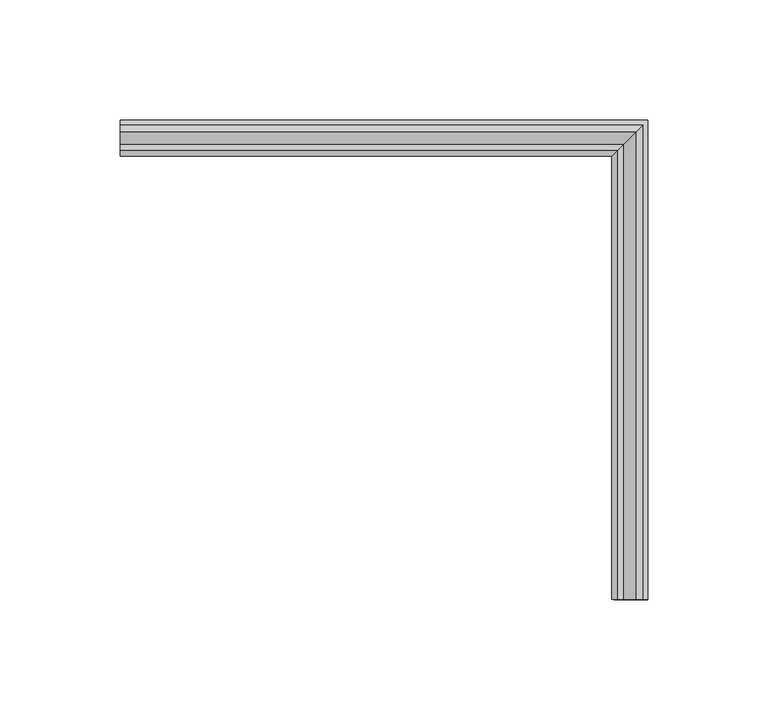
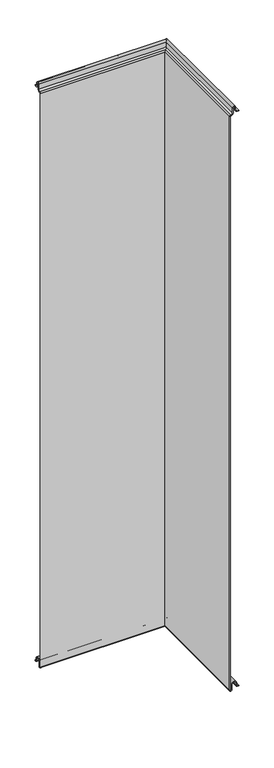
"""IFC4 building model written with IfcOpenShell, lengths in millimetres: plate geometry, Угловой модуль Fronttop : Угловой модуль Fronttop 150/1000."""

from ifc_helpers import new_model, si_unit, frame, origin, place, context, project, spatial, polyline, circle_curve, ellipse_curve, source, transform, mapped, element, save
from ifc_brep_helpers import plane_surface, cylinder_surface, revolved_surface, advanced_brep


def plate_1ac65dce(model_context):
    return source(origin(), model_context, "Body", "AdvancedBrep", [
        advanced_brep(
        [(-169.5, 13.0, 1001.0), (-169.5, 15.0, 1001.0), (-169.5, 15.0, 1000.0), (-169.5, 13.0, 1000.0), (-169.5, 9.0, 1004.0), (-169.5, 9.0, 1008.0), (-169.5, 6.0, 1008.0), (-169.5, 6.0, 999.5), (-169.5, 2.1134897, 996.0214069), (-169.5, 1.0, 995.0), (-169.5, 1.0, -0.5), (-169.5, 3.0, -0.5), (-169.5, 3.0, 8.0), (-169.5, 12.0, 8.0), (-169.5, 12.0, 4.0), (-169.5, 13.0, 3.0), (-169.5, 15.0, 3.0), (-169.5, 15.0, 2.0), (-169.5, 13.0, 2.0), (-169.5, 11.0, 4.0), (-169.5, 11.0, 8.0), (-169.5, 4.0, 8.0), (-169.5, 4.0, -0.5), (-169.5, 0.0, -0.5), (-169.5, 0.0, 995.0), (-169.5, 2.220863, 996.9877675), (-169.5, 5.0, 999.5), (-169.5, 5.0, 1008.0), (-169.5, 10.0, 1008.0), (-169.5, 10.0, 1004.0), (48.0, 13.0, 1001.0), (48.0, -184.5, 1001.0), (50.0, -184.5, 1001.0), (50.0, 15.0, 1001.0), (50.0, 15.0, 1000.0), (50.0, -184.5, 1000.0), (48.0, -184.5, 1000.0), (48.0, 13.0, 1000.0), (44.0, 9.0, 1004.0), (44.0, 9.0, 1008.0), (41.0, 6.0, 1008.0), (41.0, 6.0, 999.5), (37.1134897, 2.1134897, 996.0214069), (36.0, 1.0, 995.0), (36.0, 1.0, -0.5), (38.0, 3.0, -0.5), (38.0, 3.0, 8.0), (47.0, 12.0, 8.0), (47.0, 12.0, 4.0), (48.0, 13.0, 3.0), (48.0, -184.5, 3.0), (50.0, -184.5, 3.0), (50.0, 15.0, 3.0), (50.0, 15.0, 2.0), (50.0, -184.5, 2.0), (48.0, -184.5, 2.0), (48.0, 13.0, 2.0), (46.0, 11.0, 4.0), (46.0, 11.0, 8.0), (39.0, 4.0, 8.0), (39.0, 4.0, -0.5), (35.0, 0.0, -0.5), (35.0, 0.0, 995.0), (37.220863, 2.220863, 996.9877675), (40.0, 5.0, 999.5), (40.0, 5.0, 1008.0), (45.0, 10.0, 1008.0), (45.0, 10.0, 1004.0), (45.0, -184.5, 1004.0), (45.0, -184.5, 1008.0), (40.0, -184.5, 1008.0), (40.0, -184.5, 999.5), (37.2239212, -184.5, 997.0152907), (35.0, -184.5, 995.0), (35.0, -184.5, -0.5), (39.0, -184.5, -0.5), (39.0, -184.5, 8.0), (46.0, -184.5, 8.0), (46.0, -184.5, 4.0), (47.0, -184.5, 4.0), (47.0, -184.5, 8.0), (38.0, -184.5, 8.0), (38.0, -184.5, -0.5), (36.0, -184.5, -0.5), (36.0, -184.5, 995.0), (37.1104315, -184.5, 995.9938837), (41.0, -184.5, 999.5), (41.0, -184.5, 1008.0), (44.0, -184.5, 1008.0), (44.0, -184.5, 1004.0)],
        [
            (0, 1),
            (1, 2),
            (2, 3),
            (3, 4, circle_curve(frame((-169.5, 13.0, 1004.0), z_axis=(-1.0, 0.0, 0.0), x_axis=(0.0, -1.0, 0.0)), 4.0)),
            (4, 5),
            (5, 6, circle_curve(frame((-169.5, 7.5, 1008.0), z_axis=(1.0, 0.0, 0.0), x_axis=(0.0, -1.0, 0.0)), 1.5)),
            (6, 7),
            (7, 8, circle_curve(frame((-169.5, 2.5, 999.5), z_axis=(-1.0, 0.0, 0.0), x_axis=(0.0, -1.0, 0.0)), 3.5)),
            (8, 9, circle_curve(frame((-169.5, 2.0, 995.0), z_axis=(1.0, 0.0, 0.0), x_axis=(0.0, -1.0, 0.0)), 1.0)),
            (9, 10),
            (10, 11, circle_curve(frame((-169.5, 2.0, -0.5), z_axis=(1.0, 0.0, 0.0), x_axis=(0.0, -1.0, 0.0)), 1.0)),
            (11, 12),
            (12, 13, circle_curve(frame((-169.5, 7.5, 8.0), z_axis=(-1.0, 0.0, 0.0), x_axis=(0.0, -1.0, 0.0)), 4.5)),
            (13, 14),
            (14, 15, circle_curve(frame((-169.5, 13.0, 4.0), z_axis=(1.0, 0.0, 0.0), x_axis=(0.0, -1.0, 0.0)), 1.0)),
            (15, 16),
            (16, 17),
            (17, 18),
            (18, 19, circle_curve(frame((-169.5, 13.0, 4.0), z_axis=(-1.0, 0.0, 0.0), x_axis=(0.0, -1.0, 0.0)), 2.0)),
            (19, 20),
            (20, 21, circle_curve(frame((-169.5, 7.5, 8.0), z_axis=(1.0, 0.0, 0.0), x_axis=(0.0, -1.0, 0.0)), 3.5)),
            (21, 22),
            (22, 23, circle_curve(frame((-169.5, 2.0, -0.5), z_axis=(-1.0, 0.0, 0.0), x_axis=(0.0, -1.0, 0.0)), 2.0)),
            (23, 24),
            (24, 25, circle_curve(frame((-169.5, 2.0, 995.0), z_axis=(-1.0, 0.0, 0.0), x_axis=(0.0, -1.0, 0.0)), 2.0)),
            (25, 26, circle_curve(frame((-169.5, 2.5, 999.5), z_axis=(1.0, 0.0, 0.0), x_axis=(0.0, -1.0, 0.0)), 2.5)),
            (26, 27),
            (27, 28, circle_curve(frame((-169.5, 7.5, 1008.0), z_axis=(-1.0, 0.0, 0.0), x_axis=(0.0, -1.0, 0.0)), 2.5)),
            (28, 29),
            (29, 0, circle_curve(frame((-169.5, 13.0, 1004.0), z_axis=(1.0, 0.0, 0.0), x_axis=(0.0, -1.0, 0.0)), 3.0)),
            (0, 30),
            (30, 31),
            (31, 32),
            (32, 33),
            (33, 1),
            (33, 34),
            (34, 2),
            (34, 35),
            (35, 36),
            (36, 37),
            (37, 3),
            (37, 38, ellipse_curve(frame((48.0, 13.0, 1004.0), z_axis=(-0.7071067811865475, 0.7071067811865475, 0.0), x_axis=(-0.7071067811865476, -0.7071067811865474, 0.0)), 5.6568542, 4.0)),
            (38, 4),
            (38, 39),
            (39, 5),
            (39, 40, ellipse_curve(frame((42.5, 7.5, 1008.0), z_axis=(0.7071067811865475, -0.7071067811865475, 0.0), x_axis=(0.7071067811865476, 0.7071067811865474, 0.0)), 2.1213204, 1.5)),
            (40, 6),
            (40, 41),
            (41, 7),
            (41, 42, ellipse_curve(frame((37.5, 2.5, 999.5), z_axis=(-0.7071067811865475, 0.7071067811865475, 0.0), x_axis=(-0.7071067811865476, -0.7071067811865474, 0.0)), 4.9497475, 3.5)),
            (42, 8),
            (42, 43, ellipse_curve(frame((37.0, 2.0, 995.0), z_axis=(0.7071067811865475, -0.7071067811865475, 0.0), x_axis=(0.7071067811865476, 0.7071067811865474, 0.0)), 1.4142136, 1.0)),
            (43, 9),
            (43, 44),
            (44, 10),
            (44, 45, ellipse_curve(frame((37.0, 2.0, -0.5), z_axis=(0.7071067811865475, -0.7071067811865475, 0.0), x_axis=(0.7071067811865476, 0.7071067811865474, 0.0)), 1.4142136, 1.0)),
            (45, 11),
            (45, 46),
            (46, 12),
            (46, 47, ellipse_curve(frame((42.5, 7.5, 8.0), z_axis=(-0.7071067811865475, 0.7071067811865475, 0.0), x_axis=(-0.7071067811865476, -0.7071067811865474, 0.0)), 6.363961, 4.5)),
            (47, 13),
            (47, 48),
            (48, 14),
            (48, 49, ellipse_curve(frame((48.0, 13.0, 4.0), z_axis=(0.7071067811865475, -0.7071067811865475, 0.0), x_axis=(0.7071067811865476, 0.7071067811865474, 0.0)), 1.4142136, 1.0)),
            (49, 15),
            (49, 50),
            (50, 51),
            (51, 52),
            (52, 16),
            (52, 53),
            (53, 17),
            (53, 54),
            (54, 55),
            (55, 56),
            (56, 18),
            (56, 57, ellipse_curve(frame((48.0, 13.0, 4.0), z_axis=(-0.7071067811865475, 0.7071067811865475, 0.0), x_axis=(-0.7071067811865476, -0.7071067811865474, 0.0)), 2.8284271, 2.0)),
            (57, 19),
            (57, 58),
            (58, 20),
            (58, 59, ellipse_curve(frame((42.5, 7.5, 8.0), z_axis=(0.7071067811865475, -0.7071067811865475, 0.0), x_axis=(0.7071067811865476, 0.7071067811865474, 0.0)), 4.9497475, 3.5)),
            (59, 21),
            (59, 60),
            (60, 22),
            (60, 61, ellipse_curve(frame((37.0, 2.0, -0.5), z_axis=(-0.7071067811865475, 0.7071067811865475, 0.0), x_axis=(-0.7071067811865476, -0.7071067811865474, 0.0)), 2.8284271, 2.0)),
            (61, 23),
            (61, 62),
            (62, 24),
            (62, 63, ellipse_curve(frame((37.0, 2.0, 995.0), z_axis=(-0.7071067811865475, 0.7071067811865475, 0.0), x_axis=(-0.7071067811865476, -0.7071067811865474, 0.0)), 2.8284271, 2.0)),
            (63, 25),
            (63, 64, ellipse_curve(frame((37.5, 2.5, 999.5), z_axis=(0.7071067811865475, -0.7071067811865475, 0.0), x_axis=(0.7071067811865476, 0.7071067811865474, 0.0)), 3.5355339, 2.5)),
            (64, 26),
            (64, 65),
            (65, 27),
            (65, 66, ellipse_curve(frame((42.5, 7.5, 1008.0), z_axis=(-0.7071067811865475, 0.7071067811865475, 0.0), x_axis=(-0.7071067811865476, -0.7071067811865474, 0.0)), 3.5355339, 2.5)),
            (66, 28),
            (66, 67),
            (67, 29),
            (67, 30, ellipse_curve(frame((48.0, 13.0, 1004.0), z_axis=(0.7071067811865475, -0.7071067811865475, 0.0), x_axis=(0.7071067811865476, 0.7071067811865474, 0.0)), 4.2426407, 3.0)),
            (31, 68, circle_curve(frame((48.0, -184.5, 1004.0), z_axis=(0.0, 1.0, 0.0), x_axis=(-1.0, 0.0, 0.0)), 3.0)),
            (68, 69),
            (69, 70, circle_curve(frame((42.5, -184.5, 1008.0), z_axis=(0.0, -1.0, 0.0), x_axis=(-1.0, 0.0, 0.0)), 2.5)),
            (70, 71),
            (71, 72, circle_curve(frame((37.5, -184.5, 999.5), z_axis=(0.0, 1.0, 0.0), x_axis=(-1.0, 0.0, 0.0)), 2.5)),
            (72, 73, circle_curve(frame((37.0, -184.5, 995.0), z_axis=(0.0, -1.0, 0.0), x_axis=(-1.0, 0.0, 0.0)), 2.0)),
            (73, 74),
            (74, 75, circle_curve(frame((37.0, -184.5, -0.5), z_axis=(0.0, -1.0, 0.0), x_axis=(-1.0, 0.0, 0.0)), 2.0)),
            (75, 76),
            (76, 77, circle_curve(frame((42.5, -184.5, 8.0), z_axis=(0.0, 1.0, 0.0), x_axis=(-1.0, 0.0, 0.0)), 3.5)),
            (77, 78),
            (78, 55, circle_curve(frame((48.0, -184.5, 4.0), z_axis=(0.0, -1.0, 0.0), x_axis=(-1.0, 0.0, 0.0)), 2.0)),
            (54, 51),
            (50, 79, circle_curve(frame((48.0, -184.5, 4.0), z_axis=(0.0, 1.0, 0.0), x_axis=(-1.0, 0.0, 0.0)), 1.0)),
            (79, 80),
            (80, 81, circle_curve(frame((42.5, -184.5, 8.0), z_axis=(0.0, -1.0, 0.0), x_axis=(-1.0, 0.0, 0.0)), 4.5)),
            (81, 82),
            (82, 83, circle_curve(frame((37.0, -184.5, -0.5), z_axis=(0.0, 1.0, 0.0), x_axis=(-1.0, 0.0, 0.0)), 1.0)),
            (83, 84),
            (84, 85, circle_curve(frame((37.0, -184.5, 995.0), z_axis=(0.0, 1.0, 0.0), x_axis=(-1.0, 0.0, 0.0)), 1.0)),
            (85, 86, circle_curve(frame((37.5, -184.5, 999.5), z_axis=(0.0, -1.0, 0.0), x_axis=(-1.0, 0.0, 0.0)), 3.5)),
            (86, 87),
            (87, 88, circle_curve(frame((42.5, -184.5, 1008.0), z_axis=(0.0, 1.0, 0.0), x_axis=(-1.0, 0.0, 0.0)), 1.5)),
            (88, 89),
            (89, 36, circle_curve(frame((48.0, -184.5, 1004.0), z_axis=(0.0, -1.0, 0.0), x_axis=(-1.0, 0.0, 0.0)), 4.0)),
            (35, 32),
            (89, 38),
            (88, 39),
            (87, 40),
            (86, 41),
            (85, 42),
            (84, 43),
            (83, 44),
            (82, 45),
            (81, 46),
            (80, 47),
            (79, 48),
            (78, 57),
            (77, 58),
            (76, 59),
            (75, 60),
            (74, 61),
            (73, 62),
            (72, 63),
            (71, 64),
            (70, 65),
            (69, 66),
            (68, 67),
        ],
        [
            plane_surface(frame((-169.5, 0.0, 0.0), z_axis=(-1.0, 0.0, 0.0), x_axis=(0.0, 0.0, 1.0))),
            plane_surface(frame((-169.5, 13.0, 1001.0), z_axis=(0.0, 0.0, 1.0), x_axis=(1.0, 0.0, 0.0))),
            plane_surface(frame((-169.5, 15.0, 1001.0), z_axis=(0.0, 1.0, 0.0), x_axis=(1.0, 0.0, 0.0))),
            plane_surface(frame((-169.5, 15.0, 1000.0), z_axis=(0.0, 0.0, -1.0), x_axis=(1.0, 0.0, 0.0))),
            cylinder_surface(frame((-169.5, 13.0, 1004.0), z_axis=(-1.0, 0.0, 0.0), x_axis=(0.0, -1.0, 0.0)), 4.0),
            plane_surface(frame((-169.5, 9.0, 1004.0), z_axis=(0.0, -1.0, 0.0), x_axis=(1.0, 0.0, 0.0))),
            revolved_surface(polyline([(44.00000003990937, 6.0, 1008.0), (-169.5, 6.0, 1008.0)]), (-169.5, 7.5, 1008.0), (1.0, 0.0, 0.0)),
            plane_surface(frame((-169.5, 6.0, 1008.0), z_axis=(0.0, 1.0, 0.0), x_axis=(1.0, 0.0, 0.0))),
            cylinder_surface(frame((-169.5, 2.5, 999.5), z_axis=(-1.0, 0.0, 0.0), x_axis=(0.0, -1.0, 0.0)), 3.5),
            revolved_surface(polyline([(38.000000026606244, 1.0, 995.0), (-169.5, 1.0, 995.0)]), (-169.5, 2.0, 995.0), (1.0, 0.0, 0.0)),
            plane_surface(frame((-169.5, 1.0, 995.0), z_axis=(0.0, 1.0, 0.0), x_axis=(1.0, 0.0, 0.0))),
            revolved_surface(polyline([(38.000000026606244, 1.0, -0.5), (-169.5, 1.0, -0.5)]), (-169.5, 2.0, -0.5), (1.0, 0.0, 0.0)),
            plane_surface(frame((-169.5, 3.0, -0.5), z_axis=(0.0, -1.0, 0.0), x_axis=(1.0, 0.0, 0.0))),
            cylinder_surface(frame((-169.5, 7.5, 8.0), z_axis=(-1.0, 0.0, 0.0), x_axis=(0.0, -1.0, 0.0)), 4.5),
            plane_surface(frame((-169.5, 12.0, 8.0), z_axis=(0.0, 1.0, 0.0), x_axis=(1.0, 0.0, 0.0))),
            revolved_surface(polyline([(49.000000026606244, 12.0, 4.0), (-169.5, 12.0, 4.0)]), (-169.5, 13.0, 4.0), (1.0, 0.0, 0.0)),
            plane_surface(frame((-169.5, 13.0, 3.0), z_axis=(0.0, 0.0, 1.0), x_axis=(1.0, 0.0, 0.0))),
            plane_surface(frame((-169.5, 15.0, 3.0), z_axis=(0.0, 1.0, 0.0), x_axis=(1.0, 0.0, 0.0))),
            plane_surface(frame((-169.5, 15.0, 2.0), z_axis=(0.0, 0.0, -1.0), x_axis=(1.0, 0.0, 0.0))),
            cylinder_surface(frame((-169.5, 13.0, 4.0), z_axis=(-1.0, 0.0, 0.0), x_axis=(0.0, -1.0, 0.0)), 2.0),
            plane_surface(frame((-169.5, 11.0, 4.0), z_axis=(0.0, -1.0, 0.0), x_axis=(1.0, 0.0, 0.0))),
            revolved_surface(polyline([(46.00000002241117, 4.0, 8.0), (-169.5, 4.0, 8.0)]), (-169.5, 7.5, 8.0), (1.0, 0.0, 0.0)),
            plane_surface(frame((-169.5, 4.0, 8.0), z_axis=(0.0, 1.0, 0.0), x_axis=(1.0, 0.0, 0.0))),
            cylinder_surface(frame((-169.5, 2.0, -0.5), z_axis=(-1.0, 0.0, 0.0), x_axis=(0.0, -1.0, 0.0)), 2.0),
            plane_surface(frame((-169.5, 0.0, -0.5), z_axis=(0.0, -1.0, 0.0), x_axis=(1.0, 0.0, 0.0))),
            cylinder_surface(frame((-169.5, 2.0, 995.0), z_axis=(-1.0, 0.0, 0.0), x_axis=(0.0, -1.0, 0.0)), 2.0),
            revolved_surface(polyline([(40.0, 0.0, 999.5), (-169.5, 0.0, 999.5)]), (-169.5, 2.5, 999.5), (1.0, 0.0, 0.0)),
            plane_surface(frame((-169.5, 5.0, 999.5), z_axis=(0.0, -1.0, 0.0), x_axis=(1.0, 0.0, 0.0))),
            cylinder_surface(frame((-169.5, 7.5, 1008.0), z_axis=(-1.0, 0.0, 0.0), x_axis=(0.0, -1.0, 0.0)), 2.5),
            plane_surface(frame((-169.5, 10.0, 1008.0), z_axis=(0.0, 1.0, 0.0), x_axis=(1.0, 0.0, 0.0))),
            revolved_surface(polyline([(51.00000000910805, 10.0, 1004.0), (-169.5, 10.0, 1004.0)]), (-169.5, 13.0, 1004.0), (1.0, 0.0, 0.0)),
            plane_surface(frame((35.0, -184.5, 0.0), z_axis=(0.0, -1.0, 0.0), x_axis=(0.0, 0.0, 1.0))),
            plane_surface(frame((50.0, 15.0, 1001.0), z_axis=(1.0, 0.0, 0.0), x_axis=(0.0, -1.0, 0.0))),
            cylinder_surface(frame((48.0, 0.0, 1004.0), z_axis=(0.0, 1.0, 0.0), x_axis=(-1.0, 0.0, 0.0)), 4.0),
            plane_surface(frame((44.0, 9.0, 1004.0), z_axis=(-1.0, 0.0, 0.0), x_axis=(0.0, -1.0, 0.0))),
            revolved_surface(polyline([(41.0, -184.5, 1008.0), (41.0, 9.00000003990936, 1008.0)]), (42.5, 0.0, 1008.0), (0.0, -1.0, 0.0)),
            plane_surface(frame((41.0, 6.0, 1008.0), z_axis=(1.0, 0.0, 0.0), x_axis=(0.0, -1.0, 0.0))),
            cylinder_surface(frame((37.5, 0.0, 999.5), z_axis=(0.0, 1.0, 0.0), x_axis=(-1.0, 0.0, 0.0)), 3.5),
            revolved_surface(polyline([(36.0, -184.5, 995.0), (36.0, 3.0000000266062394, 995.0)]), (37.0, 0.0, 995.0), (0.0, -1.0, 0.0)),
            plane_surface(frame((36.0, 1.0, 995.0), z_axis=(1.0, 0.0, 0.0), x_axis=(0.0, -1.0, 0.0))),
            revolved_surface(polyline([(36.0, -184.5, -0.5), (36.0, 3.0000000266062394, -0.5)]), (37.0, 0.0, -0.5), (0.0, -1.0, 0.0)),
            plane_surface(frame((38.0, 3.0, -0.5), z_axis=(-1.0, 0.0, 0.0), x_axis=(0.0, -1.0, 0.0))),
            cylinder_surface(frame((42.5, 0.0, 8.0), z_axis=(0.0, 1.0, 0.0), x_axis=(-1.0, 0.0, 0.0)), 4.5),
            plane_surface(frame((47.0, 12.0, 8.0), z_axis=(1.0, 0.0, 0.0), x_axis=(0.0, -1.0, 0.0))),
            revolved_surface(polyline([(47.0, -184.5, 4.0), (47.0, 14.000000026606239, 4.0)]), (48.0, 0.0, 4.0), (0.0, -1.0, 0.0)),
            plane_surface(frame((50.0, 15.0, 3.0), z_axis=(1.0, 0.0, 0.0), x_axis=(0.0, -1.0, 0.0))),
            cylinder_surface(frame((48.0, 0.0, 4.0), z_axis=(0.0, 1.0, 0.0), x_axis=(-1.0, 0.0, 0.0)), 2.0),
            plane_surface(frame((46.0, 11.0, 4.0), z_axis=(-1.0, 0.0, 0.0), x_axis=(0.0, -1.0, 0.0))),
            revolved_surface(polyline([(39.0, -184.5, 8.0), (39.0, 11.00000002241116, 8.0)]), (42.5, 0.0, 8.0), (0.0, -1.0, 0.0)),
            plane_surface(frame((39.0, 4.0, 8.0), z_axis=(1.0, 0.0, 0.0), x_axis=(0.0, -1.0, 0.0))),
            cylinder_surface(frame((37.0, 0.0, -0.5), z_axis=(0.0, 1.0, 0.0), x_axis=(-1.0, 0.0, 0.0)), 2.0),
            plane_surface(frame((35.0, 0.0, -0.5), z_axis=(-1.0, 0.0, 0.0), x_axis=(0.0, -1.0, 0.0))),
            cylinder_surface(frame((37.0, 0.0, 995.0), z_axis=(0.0, 1.0, 0.0), x_axis=(-1.0, 0.0, 0.0)), 2.0),
            revolved_surface(polyline([(35.0, -184.5, 999.5), (35.0, 5.0, 999.5)]), (37.5, 0.0, 999.5), (0.0, -1.0, 0.0)),
            plane_surface(frame((40.0, 5.0, 999.5), z_axis=(-1.0, 0.0, 0.0), x_axis=(0.0, -1.0, 0.0))),
            cylinder_surface(frame((42.5, 0.0, 1008.0), z_axis=(0.0, 1.0, 0.0), x_axis=(-1.0, 0.0, 0.0)), 2.5),
            plane_surface(frame((45.0, 10.0, 1008.0), z_axis=(1.0, 0.0, 0.0), x_axis=(0.0, -1.0, 0.0))),
            revolved_surface(polyline([(45.0, -184.5, 1004.0), (45.0, 16.00000000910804, 1004.0)]), (48.0, 0.0, 1004.0), (0.0, -1.0, 0.0)),
        ],
        [
            (0, [[1, 2, 3, 4, 5, 6, 7, 8, 9, 10, 11, 12, 13, 14, 15, 16, 17, 18, 19, 20, 21, 22, 23, 24, 25, 26, 27, 28, 29, 30]]),
            (1, [[-1, 31, 32, 33, 34, 35]]),
            (2, [[-2, -35, 36, 37]]),
            (3, [[-3, -37, 38, 39, 40, 41]]),
            (4, [[-4, -41, 42, 43]]),
            (5, [[-5, -43, 44, 45]]),
            (6, [[-6, -45, 46, 47]]),
            (7, [[-7, -47, 48, 49]]),
            (8, [[-8, -49, 50, 51]]),
            (9, [[-9, -51, 52, 53]]),
            (10, [[-10, -53, 54, 55]]),
            (11, [[-11, -55, 56, 57]]),
            (12, [[-12, -57, 58, 59]]),
            (13, [[-13, -59, 60, 61]]),
            (14, [[-14, -61, 62, 63]]),
            (15, [[-15, -63, 64, 65]]),
            (16, [[-16, -65, 66, 67, 68, 69]]),
            (17, [[-17, -69, 70, 71]]),
            (18, [[-18, -71, 72, 73, 74, 75]]),
            (19, [[-19, -75, 76, 77]]),
            (20, [[-20, -77, 78, 79]]),
            (21, [[-21, -79, 80, 81]]),
            (22, [[-22, -81, 82, 83]]),
            (23, [[-23, -83, 84, 85]]),
            (24, [[-24, -85, 86, 87]]),
            (25, [[-25, -87, 88, 89]]),
            (26, [[-26, -89, 90, 91]]),
            (27, [[-27, -91, 92, 93]]),
            (28, [[-28, -93, 94, 95]]),
            (29, [[-29, -95, 96, 97]]),
            (30, [[-30, -97, 98, -31]]),
            (31, [[99, 100, 101, 102, 103, 104, 105, 106, 107, 108, 109, 110, -73, 111, -67, 112, 113, 114, 115, 116, 117, 118, 119, 120, 121, 122, 123, -39, 124, -33]]),
            (32, [[-36, -34, -124, -38]]),
            (33, [[-42, -40, -123, 125]]),
            (34, [[-44, -125, -122, 126]]),
            (35, [[-46, -126, -121, 127]]),
            (36, [[-48, -127, -120, 128]]),
            (37, [[-50, -128, -119, 129]]),
            (38, [[-52, -129, -118, 130]]),
            (39, [[-54, -130, -117, 131]]),
            (40, [[-56, -131, -116, 132]]),
            (41, [[-58, -132, -115, 133]]),
            (42, [[-60, -133, -114, 134]]),
            (43, [[-62, -134, -113, 135]]),
            (44, [[-64, -135, -112, -66]]),
            (45, [[-70, -68, -111, -72]]),
            (46, [[-76, -74, -110, 136]]),
            (47, [[-78, -136, -109, 137]]),
            (48, [[-80, -137, -108, 138]]),
            (49, [[-82, -138, -107, 139]]),
            (50, [[-84, -139, -106, 140]]),
            (51, [[-86, -140, -105, 141]]),
            (52, [[-88, -141, -104, 142]]),
            (53, [[-90, -142, -103, 143]]),
            (54, [[-92, -143, -102, 144]]),
            (55, [[-94, -144, -101, 145]]),
            (56, [[-96, -145, -100, 146]]),
            (57, [[-98, -146, -99, -32]]),
        ],
    ),
    ])


if __name__ == "__main__":
    model = new_model("IFC4")
    model_context = context("Model", 3, world=origin())
    ifc_project = project(units=[si_unit("LENGTHUNIT", "METRE", prefix="MILLI")], contexts=[model_context])
    site = spatial("IfcSite", under=ifc_project)
    building = spatial("IfcBuilding", under=site)
    placement = place(None, origin())
    plate_shape = plate_1ac65dce(model_context)
    element("IfcPlate", 1, ObjectType="Угловой модуль Fronttop : Угловой модуль Fronttop 150/1000", at=placement, inside=building, context=model_context, shape_type="MappedRepresentation", body=[
        mapped(plate_shape, transform((0.0, 0.0, 0.0), x_axis=(1.0, 0.0, 0.0), y_axis=(0.0, 1.0, 0.0), z_axis=(0.0, 0.0, 1.0))),
    ])
    save(model, "model.ifc")
